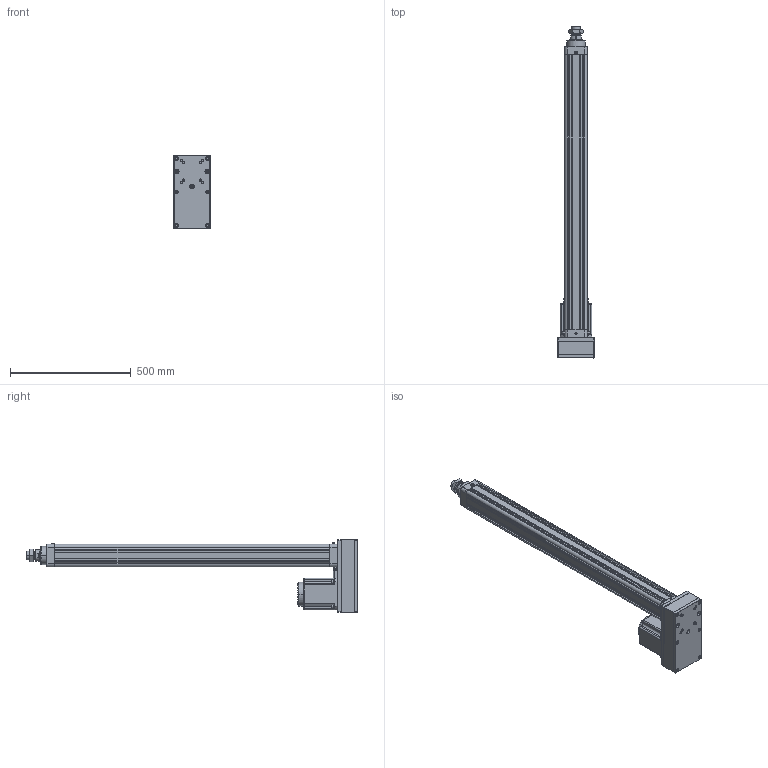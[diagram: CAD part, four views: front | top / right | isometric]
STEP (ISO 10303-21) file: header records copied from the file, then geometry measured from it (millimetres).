
FILE_DESCRIPTION((''),'2;1');
FILE_NAME('ASM0003_ASM','2020-04-01T',('ASUS20200'),(''),'CREO PARAMETRIC BY PTC INC, 2014190','CREO PARAMETRIC BY PTC INC, 2014190','');
FILE_SCHEMA(('CONFIG_CONTROL_DESIGN'));
Length unit declared in the file: millimetre
Products named in the file (25): HE80-D-P-001-X1; HE80-D-P-002-X1; HE80-D-P-003-X1; 30304J; YZ-M6X1; SLM-01; JDB506030; HE80-100-D-P-X1_ASM; HE80-P-010-X1-130N; 130ST-M10010; M10X25; HE80-P-009-X1-130N; HE80-P-013-X1-130N; TD-8; M8X35; M8X75; LM-M8-7-5; M10X1-25-40; LM-M10-30; LM-M10; HE80-D-P-005-X1; HE80-D-P-004-X1; HE80-D-P-008-X1; LGLM-M10-25; ASM0003_ASM
Assembly tree (45 placements, depth 3):
  ASM0003_ASM
    HE80-100-D-P-X1_ASM
      HE80-D-P-001-X1
      HE80-D-P-002-X1
      HE80-D-P-003-X1
      30304J  x2
      YZ-M6X1
      SLM-01
      JDB506030
    HE80-P-010-X1-130N
    130ST-M10010
    M10X25  x4
    HE80-P-009-X1-130N
    HE80-P-013-X1-130N
    TD-8  x4
    M8X35  x4
    M8X75  x6
    LM-M8-7-5  x4
    M10X1-25-40
    LM-M10-30
    LM-M10
    HE80-D-P-005-X1
    HE80-D-P-004-X1
    HE80-D-P-008-X1
    LGLM-M10-25  x4
Bounding box: 150 x 1374 x 300 mm (x, y, z)
Volume: 7485661.8 mm3; surface area: 1954261.9 mm2
Topology: 44 solids, 83 shells, 2039 faces, 4721 edges, 2872 vertices
Faces by surface type: plane 711, cone 632, cylinder 564, torus 102, sphere 26, bspline 4
Entity records: 45932 total; most frequent: CARTESIAN_POINT 9034, DIRECTION 8184, ORIENTED_EDGE 7038, EDGE_CURVE 3589, AXIS2_PLACEMENT_3D 3179, VERTEX_POINT 2185, VECTOR 1826, LINE 1826
